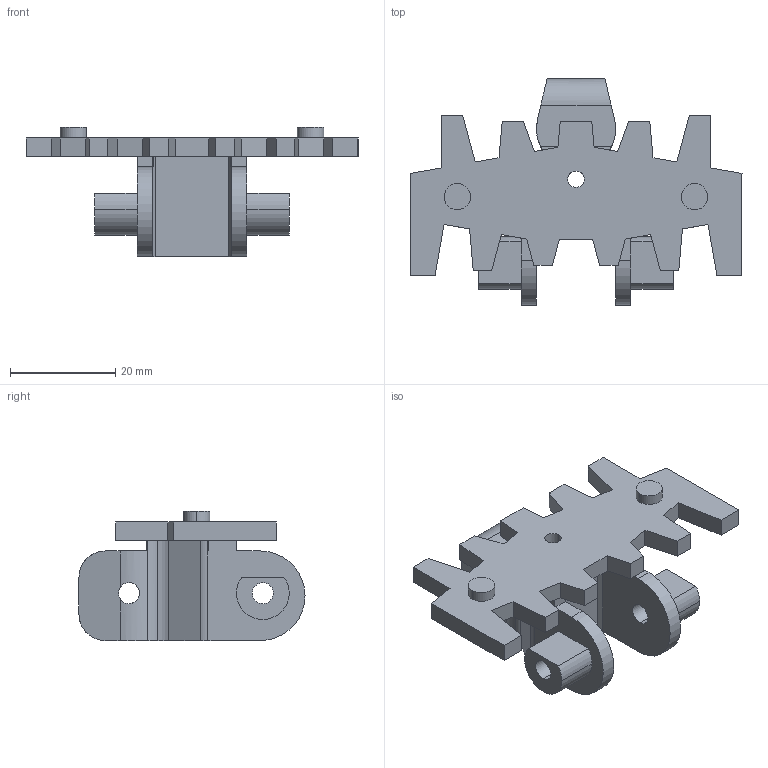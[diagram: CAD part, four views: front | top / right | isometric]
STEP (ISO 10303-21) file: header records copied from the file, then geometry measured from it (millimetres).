
FILE_DESCRIPTION (( 'STEP AP214' ), '1' );
FILE_NAME ('FSUC-5.STEP', '2011-06-07T11:47:02', ( '.' ), ( '' ), 'SwSTEP 2.0', 'SolidWorks 2010', '' );
FILE_SCHEMA (( 'AUTOMOTIVE_DESIGN' ));
Length unit declared in the file: millimetre
Products named in the file (1): FSUC-5
Bounding box: 63 x 42.9 x 24.5 mm (x, y, z)
Volume: 12929.8 mm3; surface area: 7891.9 mm2
Topology: 1 solids, 1 shells, 111 faces, 319 edges, 210 vertices
Faces by surface type: plane 80, cylinder 31
Entity records: 3743 total; most frequent: CARTESIAN_POINT 751, ORIENTED_EDGE 638, DIRECTION 587, EDGE_CURVE 319, VECTOR 251, LINE 251, VERTEX_POINT 210, AXIS2_PLACEMENT_3D 168
